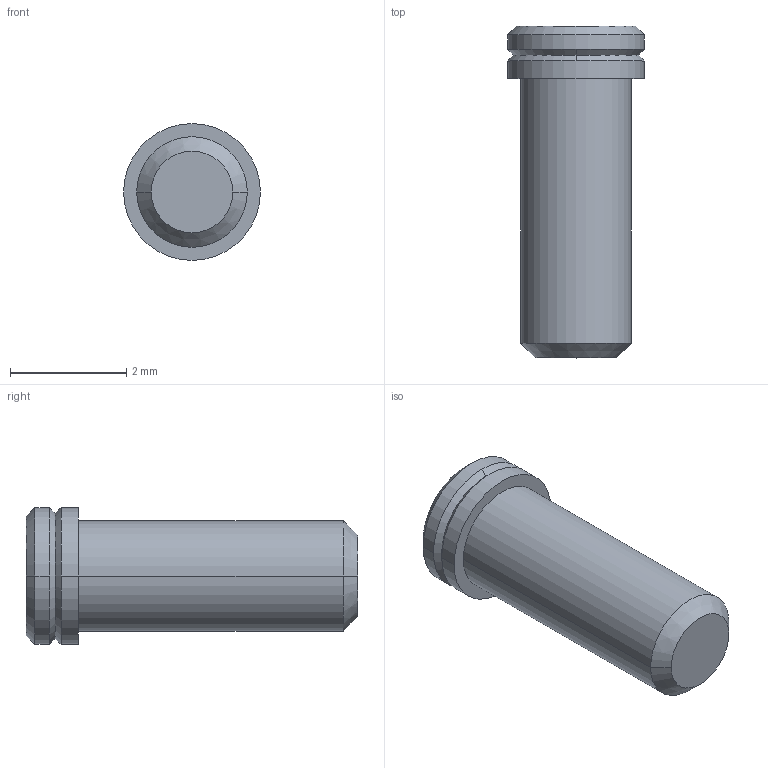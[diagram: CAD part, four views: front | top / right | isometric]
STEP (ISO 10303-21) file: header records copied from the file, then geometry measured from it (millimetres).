
FILE_DESCRIPTION((''),'2;1');
FILE_NAME('H8504-XX_ASM','2012-06-12T',('wbourne'),(''),'PRO/ENGINEER BY PARAMETRIC TECHNOLOGY CORPORATION, 2011490','PRO/ENGINEER BY PARAMETRIC TECHNOLOGY CORPORATION, 2011490','');
FILE_SCHEMA(('CONFIG_CONTROL_DESIGN','SHAPE_APPEARANCE_LAYERS_GROUPS'));
Length unit declared in the file: millimetre
Products named in the file (3): H8010-XX; Y3196; H8504-XX_ASM
Assembly tree (2 placements, depth 2):
  H8504-XX_ASM
    H8010-XX
    Y3196
Bounding box: 2.35 x 5.7 x 2.35 mm (x, y, z)
Volume: 8.8 mm3; surface area: 86.6 mm2
Topology: 2 solids, 2 shells, 62 faces, 145 edges, 87 vertices
Faces by surface type: bspline 24, plane 15, cone 13, cylinder 10
Entity records: 2859 total; most frequent: CARTESIAN_POINT 1027, ORIENTED_EDGE 286, DIRECTION 244, PRESENTATION_STYLE_ASSIGNMENT 145, STYLED_ITEM 145, CURVE_STYLE 143, EDGE_CURVE 143, AXIS2_PLACEMENT_3D 92
